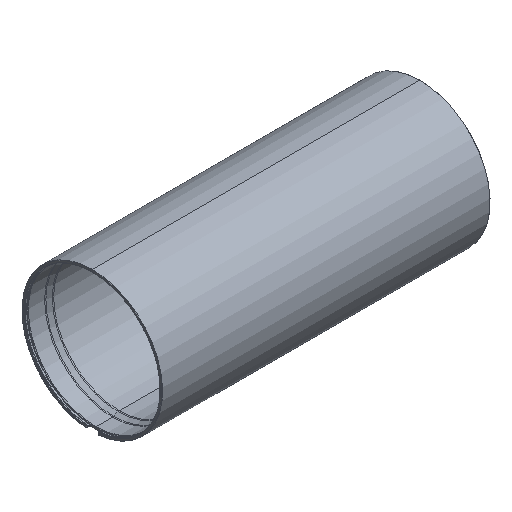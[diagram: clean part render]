
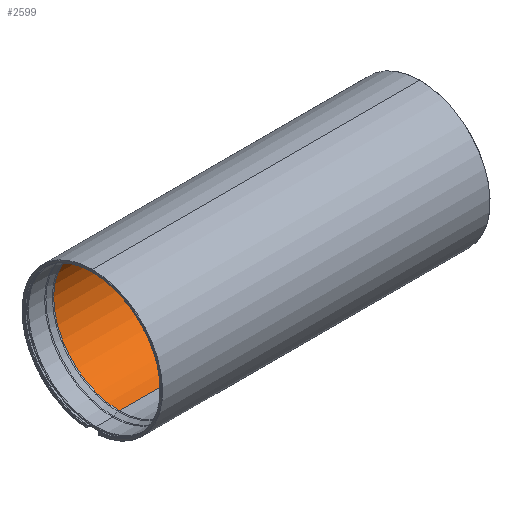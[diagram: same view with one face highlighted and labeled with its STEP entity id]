
A CAD part, isometric view. The second image highlights one B-rep face of the part: STEP entity #2599.
In plain terms, the highlighted cylindrical face has radius 100 mm (diameter 200 mm), a partial arc.
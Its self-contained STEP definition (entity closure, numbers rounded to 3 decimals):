
#105 = CARTESIAN_POINT ( 'NONE',  ( -76.2, 0., -100. ) ) ;
#336 = ORIENTED_EDGE ( 'NONE', *, *, #1979, .F. ) ;
#424 = CARTESIAN_POINT ( 'NONE',  ( -458.299, 0., 100. ) ) ;
#430 = VERTEX_POINT ( 'NONE', #424 ) ;
#460 = CARTESIAN_POINT ( 'NONE',  ( -41.701, 0., 0. ) ) ;
#506 = CIRCLE ( 'NONE', #1212, 100. ) ;
#731 = EDGE_CURVE ( 'NONE', #1629, #3785, #2698, .T. ) ;
#785 = DIRECTION ( 'NONE',  ( 0., 0., -1. ) ) ;
#904 = EDGE_CURVE ( 'NONE', #430, #2574, #506, .T. ) ;
#966 = LINE ( 'NONE', #2613, #2532 ) ;
#986 = CARTESIAN_POINT ( 'NONE',  ( -458.299, 0., -100. ) ) ;
#1115 = CARTESIAN_POINT ( 'NONE',  ( -458.299, 0., 0. ) ) ;
#1138 = DIRECTION ( 'NONE',  ( -1., 0., 0. ) ) ;
#1212 = AXIS2_PLACEMENT_3D ( 'NONE', #1115, #3467, #785 ) ;
#1336 = ORIENTED_EDGE ( 'NONE', *, *, #904, .T. ) ;
#1488 = DIRECTION ( 'NONE',  ( 0., 0., -1. ) ) ;
#1580 = AXIS2_PLACEMENT_3D ( 'NONE', #460, #1844, #1488 ) ;
#1629 = VERTEX_POINT ( 'NONE', #3114 ) ;
#1773 = LINE ( 'NONE', #105, #3233 ) ;
#1844 = DIRECTION ( 'NONE',  ( 1., 0., 0. ) ) ;
#1979 = EDGE_CURVE ( 'NONE', #1629, #2574, #1773, .T. ) ;
#1999 = DIRECTION ( 'NONE',  ( -1., 0., 0. ) ) ;
#2345 = DIRECTION ( 'NONE',  ( -1., 0., 0. ) ) ;
#2532 = VECTOR ( 'NONE', #1999, 1000. ) ;
#2574 = VERTEX_POINT ( 'NONE', #986 ) ;
#2599 = ADVANCED_FACE ( 'NONE', ( #3606 ), #2959, .F. ) ;
#2613 = CARTESIAN_POINT ( 'NONE',  ( -76.2, 0., 100. ) ) ;
#2698 = CIRCLE ( 'NONE', #1580, 100. ) ;
#2768 = ORIENTED_EDGE ( 'NONE', *, *, #731, .T. ) ;
#2959 = CYLINDRICAL_SURFACE ( 'NONE', #3235, 100. ) ;
#3114 = CARTESIAN_POINT ( 'NONE',  ( -41.701, 0., -100. ) ) ;
#3233 = VECTOR ( 'NONE', #1138, 1000. ) ;
#3235 = AXIS2_PLACEMENT_3D ( 'NONE', #4357, #2345, #4297 ) ;
#3467 = DIRECTION ( 'NONE',  ( -1., 0., 0. ) ) ;
#3485 = EDGE_CURVE ( 'NONE', #3785, #430, #966, .T. ) ;
#3606 = FACE_OUTER_BOUND ( 'NONE', #3659, .T. ) ;
#3659 = EDGE_LOOP ( 'NONE', ( #336, #2768, #4326, #1336 ) ) ;
#3785 = VERTEX_POINT ( 'NONE', #4070 ) ;
#4070 = CARTESIAN_POINT ( 'NONE',  ( -41.701, 0., 100. ) ) ;
#4297 = DIRECTION ( 'NONE',  ( 0., 0., 1. ) ) ;
#4326 = ORIENTED_EDGE ( 'NONE', *, *, #3485, .T. ) ;
#4357 = CARTESIAN_POINT ( 'NONE',  ( -76.2, 0., 0. ) ) ;
